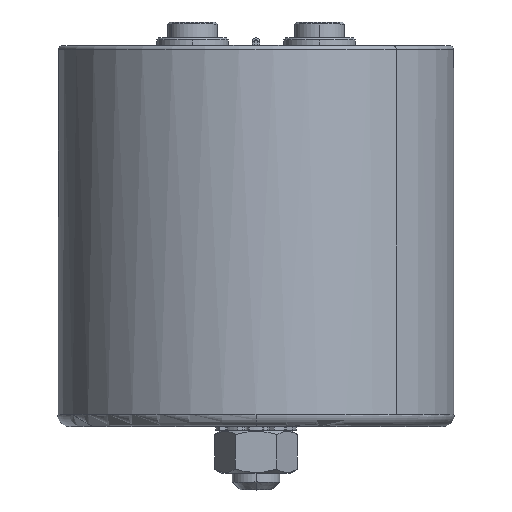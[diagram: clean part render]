
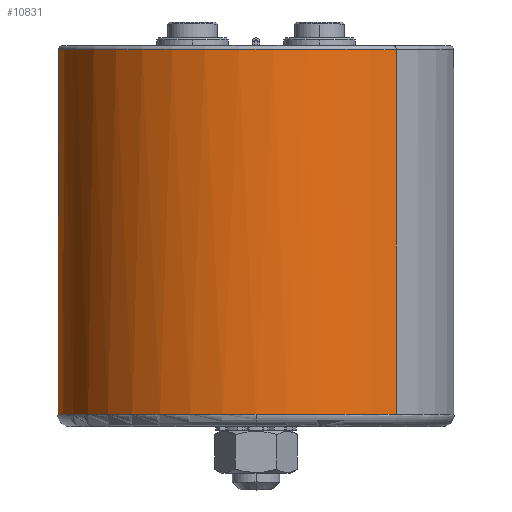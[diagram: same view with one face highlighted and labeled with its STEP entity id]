
A CAD part, top view. The second image highlights one B-rep face of the part: STEP entity #10831.
In plain terms, the highlighted cylindrical face has radius 50 mm (diameter 100 mm), a partial arc.
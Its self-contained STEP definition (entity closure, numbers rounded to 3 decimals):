
#135 = CARTESIAN_POINT ( 'NONE',  ( 0., 3., 50. ) ) ;
#285 = VERTEX_POINT ( 'NONE', #10048 ) ;
#396 = CARTESIAN_POINT ( 'NONE',  ( -35.355, 95., -35.355 ) ) ;
#706 = CARTESIAN_POINT ( 'NONE',  ( -35.355, 3., -35.355 ) ) ;
#1294 = AXIS2_PLACEMENT_3D ( 'NONE', #11295, #5263, #1557 ) ;
#1395 = CARTESIAN_POINT ( 'NONE',  ( 0., 95., 0. ) ) ;
#1557 = DIRECTION ( 'NONE',  ( 0., 0., 1. ) ) ;
#1582 = EDGE_LOOP ( 'NONE', ( #2197, #3340, #8231, #10324, #10399 ) ) ;
#1821 = LINE ( 'NONE', #10631, #7860 ) ;
#2175 = VERTEX_POINT ( 'NONE', #706 ) ;
#2197 = ORIENTED_EDGE ( 'NONE', *, *, #8811, .F. ) ;
#2635 = CARTESIAN_POINT ( 'NONE',  ( 0., 86., 0. ) ) ;
#3340 = ORIENTED_EDGE ( 'NONE', *, *, #6437, .T. ) ;
#3643 = VERTEX_POINT ( 'NONE', #135 ) ;
#3732 = AXIS2_PLACEMENT_3D ( 'NONE', #7833, #5970, #9539 ) ;
#4170 = CARTESIAN_POINT ( 'NONE',  ( -35.355, 86., -35.355 ) ) ;
#4608 = EDGE_CURVE ( 'NONE', #8055, #4671, #5542, .T. ) ;
#4671 = VERTEX_POINT ( 'NONE', #396 ) ;
#5253 = VECTOR ( 'NONE', #6880, 1000. ) ;
#5263 = DIRECTION ( 'NONE',  ( 0., 1., 0. ) ) ;
#5542 = CIRCLE ( 'NONE', #10593, 50. ) ;
#5970 = DIRECTION ( 'NONE',  ( 0., 1., 0. ) ) ;
#6070 = AXIS2_PLACEMENT_3D ( 'NONE', #2635, #9846, #6212 ) ;
#6212 = DIRECTION ( 'NONE',  ( 0.707, 0., 0.707 ) ) ;
#6277 = CYLINDRICAL_SURFACE ( 'NONE', #6070, 50. ) ;
#6437 = EDGE_CURVE ( 'NONE', #2175, #3643, #9910, .T. ) ;
#6581 = EDGE_CURVE ( 'NONE', #3643, #285, #6937, .T. ) ;
#6880 = DIRECTION ( 'NONE',  ( 0., 1., 0. ) ) ;
#6937 = CIRCLE ( 'NONE', #3732, 50. ) ;
#7076 = CARTESIAN_POINT ( 'NONE',  ( 35.355, 95., 35.355 ) ) ;
#7833 = CARTESIAN_POINT ( 'NONE',  ( 0., 3., 0. ) ) ;
#7860 = VECTOR ( 'NONE', #8872, 1000. ) ;
#8055 = VERTEX_POINT ( 'NONE', #7076 ) ;
#8231 = ORIENTED_EDGE ( 'NONE', *, *, #6581, .T. ) ;
#8483 = EDGE_CURVE ( 'NONE', #285, #8055, #1821, .T. ) ;
#8564 = DIRECTION ( 'NONE',  ( 0., -1., 0. ) ) ;
#8811 = EDGE_CURVE ( 'NONE', #2175, #4671, #11317, .T. ) ;
#8872 = DIRECTION ( 'NONE',  ( 0., 1., 0. ) ) ;
#9539 = DIRECTION ( 'NONE',  ( 0., 0., 1. ) ) ;
#9846 = DIRECTION ( 'NONE',  ( 0., 1., 0. ) ) ;
#9910 = CIRCLE ( 'NONE', #1294, 50. ) ;
#10048 = CARTESIAN_POINT ( 'NONE',  ( 35.355, 3., 35.355 ) ) ;
#10324 = ORIENTED_EDGE ( 'NONE', *, *, #8483, .T. ) ;
#10399 = ORIENTED_EDGE ( 'NONE', *, *, #4608, .T. ) ;
#10593 = AXIS2_PLACEMENT_3D ( 'NONE', #1395, #8564, #11371 ) ;
#10631 = CARTESIAN_POINT ( 'NONE',  ( 35.355, 86., 35.355 ) ) ;
#10665 = FACE_OUTER_BOUND ( 'NONE', #1582, .T. ) ;
#10831 = ADVANCED_FACE ( 'NONE', ( #10665 ), #6277, .T. ) ;
#11295 = CARTESIAN_POINT ( 'NONE',  ( 0., 3., 0. ) ) ;
#11317 = LINE ( 'NONE', #4170, #5253 ) ;
#11371 = DIRECTION ( 'NONE',  ( -0.707, 0., -0.707 ) ) ;
